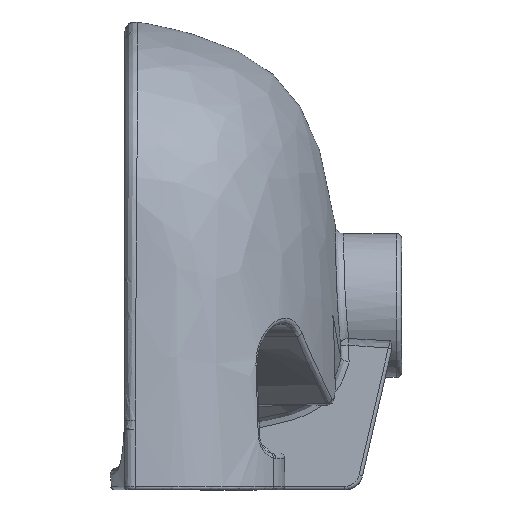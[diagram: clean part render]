
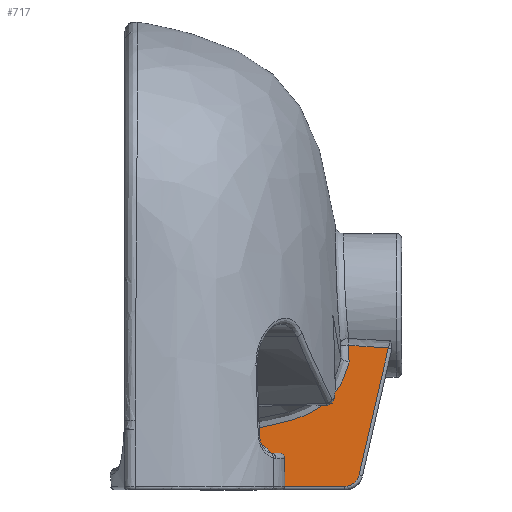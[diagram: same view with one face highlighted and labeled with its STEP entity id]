
A CAD part, left-side view. The second image highlights one B-rep face of the part: STEP entity #717.
In plain terms, the highlighted planar face has unit normal (-0.999, -0.035, 0).
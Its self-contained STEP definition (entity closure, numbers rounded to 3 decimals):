
#130=ELLIPSE('',#2912,8.005,8.);
#131=ELLIPSE('',#2913,1346.724,47.);
#132=ELLIPSE('',#2914,8.005,8.);
#148=PLANE('',#2915);
#186=LINE('',#6024,#281);
#187=LINE('',#6027,#282);
#188=LINE('',#6031,#283);
#189=LINE('',#6057,#284);
#190=LINE('',#6059,#285);
#281=VECTOR('',#3239,1.);
#282=VECTOR('',#3240,1.);
#283=VECTOR('',#3243,1.);
#284=VECTOR('',#3246,1.);
#285=VECTOR('',#3247,1.);
#372=FACE_OUTER_BOUND('',#1015,.T.);
#717=ADVANCED_FACE('',(#372),#148,.T.);
#1015=EDGE_LOOP('',(#1283,#1284,#1285,#1286,#1287,#1288,#1289,#1290,#1291,
#1292));
#1283=ORIENTED_EDGE('',*,*,#2382,.T.);
#1284=ORIENTED_EDGE('',*,*,#2383,.T.);
#1285=ORIENTED_EDGE('',*,*,#2384,.T.);
#1286=ORIENTED_EDGE('',*,*,#2385,.T.);
#1287=ORIENTED_EDGE('',*,*,#2386,.T.);
#1288=ORIENTED_EDGE('',*,*,#2387,.T.);
#1289=ORIENTED_EDGE('',*,*,#2388,.T.);
#1290=ORIENTED_EDGE('',*,*,#2389,.T.);
#1291=ORIENTED_EDGE('',*,*,#2390,.T.);
#1292=ORIENTED_EDGE('',*,*,#2391,.T.);
#2123=VERTEX_POINT('',#6025);
#2124=VERTEX_POINT('',#6026);
#2125=VERTEX_POINT('',#6028);
#2126=VERTEX_POINT('',#6030);
#2127=VERTEX_POINT('',#6032);
#2128=VERTEX_POINT('',#6034);
#2129=VERTEX_POINT('',#6039);
#2130=VERTEX_POINT('',#6056);
#2131=VERTEX_POINT('',#6058);
#2132=VERTEX_POINT('',#6060);
#2382=EDGE_CURVE('',#2123,#2124,#186,.T.);
#2383=EDGE_CURVE('',#2124,#2125,#187,.T.);
#2384=EDGE_CURVE('',#2125,#2126,#130,.T.);
#2385=EDGE_CURVE('',#2126,#2127,#188,.T.);
#2386=EDGE_CURVE('',#2127,#2128,#131,.T.);
#2387=EDGE_CURVE('',#2128,#2129,#2772,.T.);
#2388=EDGE_CURVE('',#2129,#2130,#2773,.T.);
#2389=EDGE_CURVE('',#2130,#2131,#189,.T.);
#2390=EDGE_CURVE('',#2131,#2132,#190,.T.);
#2391=EDGE_CURVE('',#2132,#2123,#132,.T.);
#2772=B_SPLINE_CURVE_WITH_KNOTS('',3,(#6035,#6036,#6037,#6038),
 .UNSPECIFIED.,.F.,.F.,(4,4),(0.,1.),.UNSPECIFIED.);
#2773=B_SPLINE_CURVE_WITH_KNOTS('',3,(#6040,#6041,#6042,#6043,#6044,#6045,
#6046,#6047,#6048,#6049,#6050,#6051,#6052,#6053,#6054,#6055),
 .UNSPECIFIED.,.F.,.F.,(4,2,2,2,2,2,2,4),(0.,0.125,0.187,0.25,
0.375,0.5,0.75,1.),.UNSPECIFIED.);
#2912=AXIS2_PLACEMENT_3D('',#6029,#3241,#3242);
#2913=AXIS2_PLACEMENT_3D('',#6033,#3244,#3245);
#2914=AXIS2_PLACEMENT_3D('',#6061,#3248,#3249);
#2915=AXIS2_PLACEMENT_3D('',#6062,#3250,#3251);
#3239=DIRECTION('',(0.,0.,-1.));
#3240=DIRECTION('',(0.035,-0.999,0.));
#3241=DIRECTION('',(-0.999,-0.035,0.));
#3242=DIRECTION('',(-0.035,0.999,0.));
#3243=DIRECTION('',(0.008,-0.224,0.975));
#3244=DIRECTION('',(0.999,0.035,0.));
#3245=DIRECTION('',(-0.035,0.999,0.));
#3246=DIRECTION('',(0.,0.,-1.));
#3247=DIRECTION('',(0.035,-0.999,0.));
#3248=DIRECTION('',(0.999,0.035,0.));
#3249=DIRECTION('',(0.035,-0.999,0.));
#3250=DIRECTION('',(-0.999,-0.035,0.));
#3251=DIRECTION('',(0.035,-0.999,0.));
#6024=CARTESIAN_POINT('',(-35.22,-79.277,0.));
#6025=CARTESIAN_POINT('',(-35.22,-79.277,17.));
#6026=CARTESIAN_POINT('',(-35.22,-79.277,2.));
#6027=CARTESIAN_POINT('',(-37.5,-14.,2.));
#6028=CARTESIAN_POINT('',(-33.83,-119.109,2.));
#6029=CARTESIAN_POINT('',(-33.83,-119.109,10.));
#6030=CARTESIAN_POINT('',(-33.557,-126.905,8.207));
#6031=CARTESIAN_POINT('',(-33.818,-119.433,-24.279));
#6032=CARTESIAN_POINT('',(-33.005,-142.732,77.021));
#6033=CARTESIAN_POINT('',(7.995,-1316.81,100.));
#6034=CARTESIAN_POINT('',(-33.758,-121.148,78.421));
#6035=CARTESIAN_POINT('',(-33.758,-121.148,78.421));
#6036=CARTESIAN_POINT('',(-33.755,-121.257,75.416));
#6037=CARTESIAN_POINT('',(-33.751,-121.354,72.41));
#6038=CARTESIAN_POINT('',(-33.748,-121.441,69.403));
#6039=CARTESIAN_POINT('',(-33.748,-121.441,69.403));
#6040=CARTESIAN_POINT('',(-33.748,-121.441,69.403));
#6041=CARTESIAN_POINT('',(-33.788,-120.294,64.437));
#6042=CARTESIAN_POINT('',(-33.853,-118.439,59.597));
#6043=CARTESIAN_POINT('',(-33.998,-114.292,53.24));
#6044=CARTESIAN_POINT('',(-34.054,-112.674,51.248));
#6045=CARTESIAN_POINT('',(-34.179,-109.103,47.672));
#6046=CARTESIAN_POINT('',(-34.247,-107.157,46.084));
#6047=CARTESIAN_POINT('',(-34.465,-100.904,41.833));
#6048=CARTESIAN_POINT('',(-34.628,-96.237,39.73));
#6049=CARTESIAN_POINT('',(-34.963,-86.664,36.518));
#6050=CARTESIAN_POINT('',(-35.135,-81.716,35.379));
#6051=CARTESIAN_POINT('',(-35.652,-66.918,32.743));
#6052=CARTESIAN_POINT('',(-36.,-56.955,31.942));
#6053=CARTESIAN_POINT('',(-36.698,-36.965,30.957));
#6054=CARTESIAN_POINT('',(-37.049,-26.927,30.819));
#6055=CARTESIAN_POINT('',(-37.399,-16.895,30.852));
#6056=CARTESIAN_POINT('',(-37.399,-16.895,30.852));
#6057=CARTESIAN_POINT('',(-37.399,-16.895,0.));
#6058=CARTESIAN_POINT('',(-37.399,-16.895,25.));
#6059=CARTESIAN_POINT('',(-37.5,-14.,25.));
#6060=CARTESIAN_POINT('',(-35.5,-71.277,25.));
#6061=CARTESIAN_POINT('',(-35.5,-71.277,17.));
#6062=CARTESIAN_POINT('',(-37.5,-14.,0.));
